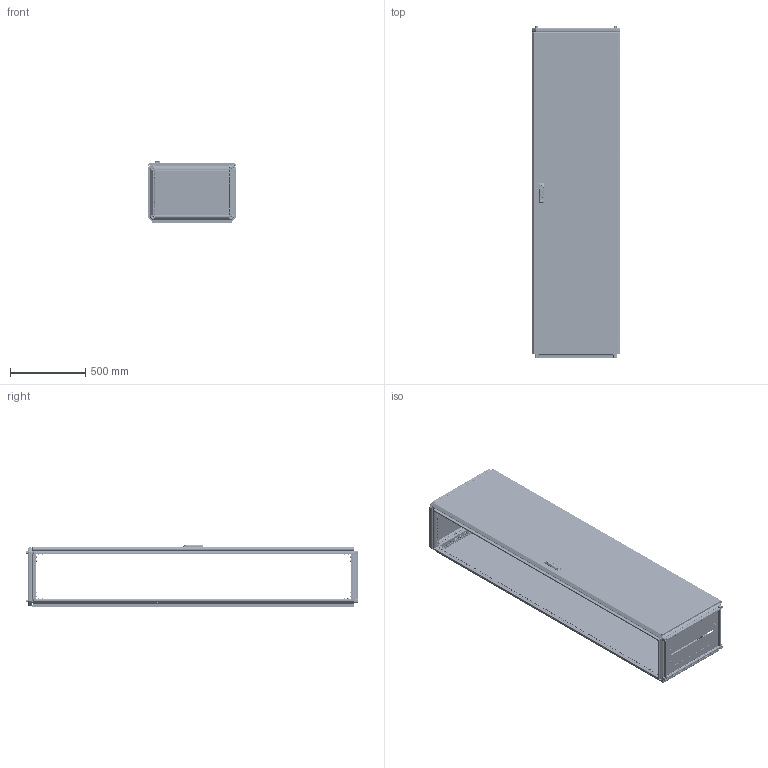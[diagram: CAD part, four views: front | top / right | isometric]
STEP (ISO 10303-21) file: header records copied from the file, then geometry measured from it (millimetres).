
FILE_DESCRIPTION (( 'STEP AP203' ), '1' );
FILE_NAME ('MA1.000.060422.10.00 AleSta2264 Øêàô AleSta 600õ400õ2200.STEP', '2024-08-23T08:45:17', ( '' ), ( '' ), 'SwSTEP 2.0', 'SolidWorks 2021', '' );
FILE_SCHEMA (( 'CONFIG_CONTROL_DESIGN' ));
Length unit declared in the file: millimetre
Products named in the file (50): MA1.101.060620.10.00 Êðûøà 600x600_600å400; Øàéáà ñòîïîðíàÿ ñ íàðóæíûìè çóáöàìè SCHNORR, òèï VS öèíêîâûå õëîïüÿ Ì6 O6,4 ART 88121_Œ6; Áîëò øåñòèãðàííûé Ì5õ12 DIN 933, êëàññ ïðî÷íîñòè 8.8, îöèíêîâàííàÿ ñòàëü; Ãàéêà ñàìîêîíòðÿùàÿñÿ ñ íåéëîíîâîé âñòàâêîé Ì6 DIN 985, êëàññ ïðî÷íîñòè 8, îöèíêîâàííàÿ ñòàëü_Œ5; MA1.101.060620.20.01 Ïîëîòíî íèæíåé ïàíåëè 600õ600_600å400; MA1.200.060620.31.02 Ðåéêà íà äâåðü âåðòèêàëüíàÿ Â = 2000_‚ = 2200; Âèíò ñ âí. øåñòèãðàííèêîì M12 DIN912_•30; MA1.000.060422.10.00 AleSta2264 Øêàô AleSta 600õ400õ2200; MA1.101.060620.20.00 Íèæíÿÿ ïàíåëü 600õ600_600å400; Øïèëüêà Ì6õ12_˜¯¨«ìª  Œ6å12; 諘蜱齁罻 022 瀁錒瀔隮; Íàâåñêà íà êîðïóñ ïîä êëåïêó; êðåïëåíèå_êðóãëîé_òÿãè_RG1020-1.stp; Óïëîòíèòåëü ïàíåëè íèæíåé_‚=2200; MA1.102.060620.00.00 AleSta-VG2000 Ñòîéêè âåðòèêàëüíûå, Â=2000ìì  (4øò)_ 600å400; Øïèëüêà Ì6õ12_˜¯¨«ìª  Œ6å16; Îñü ïåòëè 4õ52_‚¨­â A.M4x0,5x40 ƒŽ‘’ 11644-75; Ïðîáêà ïëàñòèêîâàÿ óíèâåðñàëüíàÿ ïîä îòâåðñòèå 4,5 ìì, ñåðèÿ ST, öâåò áåñöâåòíûé – ST4,5; MS463-2-3(1); äåðæàòåëü_êðóãëîé_òÿãèRG002-RG1010-2-i-RG1010-3-.stp; òÿãà_lg001-2.STEP_‚=2200; Øïèëüêà Ì6õ12_˜¯¨«ìª  Œ6å20; 7380-2 ISO Âèíòû ñ ïîëóêðóãëîé ãîëîâêîé ñ ôëàíöåì ñ âíóòðåííèì øåñòèãðàííèêîì Ì4õ10; MA1.101.060620.10.01 Ïîëîòíî êðûøè 600õ600_600å400; MA1.200.060620.31.05 Óãëîâîé óïîð äâåðíîé òÿãè; MA1.200.060620.10.00 AleSta-PR206  Ïàíåëü çàäíÿÿ, äëÿ øêàôîâ ALESTA, 2000 x 600_2200å600; Óïëîòíèòåëü ïàíåëè íèæíåé_600å400; Âèíò ñàìîíàðåçàþùèé ñ ïîòàéíîé ãîëîâêîé Ì5x14 DIN 7500 M TORX, êëàññ ïðî÷íîñòè 8.8, îöèíêîâàííàÿ ñòàëü_Œ5å12; MA1.200.060620.11.01 Ïîëîòíî çàäíåé ïàíåëè 2000õ600_2200å600; Ïåòëÿ íà äâåðü ï-îáðàçíàÿ; ﾘ琺矜 01.019 ﾃﾎﾑﾒ11371-78_12; Âèíò ñàìîíàðåçàþùèé ñ ïîòàéíîé ãîëîâêîé Ì5x14 DIN 7500 M TORX, êëàññ ïðî÷íîñòè 8.8, îöèíêîâàííàÿ ñòàëü_Œ5å14; Âèíò_ðåçüáîâûäàâëèâàþùèé_Ì5õ12_DIN 7500E_00; MA1.101.060620.20.02 Çàêðûòèå íèæíåé ïàíåëè 600õ600_600å400; MA1.200.060620.31.03 Ðåéêà íà äâåðü ãîðèçîíòàëüíàÿ Ø = 600_˜ = 600; MA1.101.060620.00.02 Ïðîôèëü ïîïåðå÷íûé ñâàðíîé_01 L=498 (˜=600); MA1.102.060620.00.01 Ïðîôèëü âåðòèêàëüíûé ñâàðíîé_05 L=2098 (‚=2200); MA1.200.060620.11.00 Ïàíåëü çàäíÿÿ, äëÿ øêàôîâ AleSta, 2000x600_2200å600; Ãàéêà ñàìîêîíòðÿùàÿñÿ ñ íåéëîíîâîé âñòàâêîé Ì6 DIN 985, êëàññ ïðî÷íîñòè 8, îöèíêîâàííàÿ ñòàëü_Œ6; Âèíò_ðåçüáîâûäàâëèâàþùèé_Ì5õ12_DIN 7500E_Œ5å12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
Assembly tree (337 placements, depth 4):
  MA1.000.060422.10.00 AleSta2264 Øêàô AleSta 600õ400õ2200
    MA1.101.060620.00.00 AleSta-RB66 Êîìïëåêò êðûøà è îñíîâàíèå_ 600å400
      MA1.101.060620.00.02 Ïðîôèëü ïîïåðå÷íûé ñâàðíîé_00 L=298 (˜=400)  x4
      MA1.101.060620.00.02 Ïðîôèëü ïîïåðå÷íûé ñâàðíîé_01 L=498 (˜=600)  x4
      MA1.101.060620.10.00 Êðûøà 600x600_600å400
        MA1.101.060620.10.01 Ïîëîòíî êðûøè 600õ600_600å400
        Øïèëüêà Ì6õ12_˜¯¨«ìª  Œ6å12  x4
        Óïëîòíèòåëü ïàíåëè íèæíåé_600å400
      MA1.101.060620.20.00 Íèæíÿÿ ïàíåëü 600õ600_600å400
        MA1.101.060620.20.01 Ïîëîòíî íèæíåé ïàíåëè 600õ600_600å400
        ﾇﾀﾊﾋﾅﾏﾊﾀ ﾃﾀﾅﾗﾍﾀﾟ ﾘﾅﾑﾒﾈﾃﾐﾀﾍﾍﾀﾟ ﾑ ﾓﾌﾅﾍﾜﾘﾅﾍﾍﾛﾌ ﾁﾎﾐﾒﾎﾌ M4 X 11 (0.5-2.5 ﾌﾌ) HEX U-S ﾖﾈﾍﾊ  x4
        MA1.101.060620.20.02 Çàêðûòèå íèæíåé ïàíåëè 600õ600_600å400  x2
        7380-2 ISO Âèíòû ñ ïîëóêðóãëîé ãîëîâêîé ñ ôëàíöåì ñ âíóòðåííèì øåñòèãðàííèêîì Ì4õ10  x4
      Âèíò_ðåçüáîâûäàâëèâàþùèé_Ì5õ12_DIN 7500E_Œ5å12  x8
      MA1.100.060620.00.01 Ñîåäèíèòåëü óãëîâîé_00  x8
      Âèíò ñ âí. øåñòèãðàííèêîì M12 DIN912_•30  x4
      Âèíò ðåçüáîâûäàâëèâàþùèé Ì6õ12 DIN 7500E_Œ6å10  x96
      ﾘ琺矜 01.019 ﾃﾎﾑﾒ11371-78_12  x4
      ﾘ琺矜 65ﾃ 019 ﾃﾎﾑﾒ 6402-70_12  x4
      Øàéáà ñòîïîðíàÿ ñ íàðóæíûìè çóáöàìè SCHNORR, òèï VS öèíêîâûå õëîïüÿ Ì6 O6,4 ART 88121_Œ6  x80
    MA1.102.060620.00.00 AleSta-VG2000 Ñòîéêè âåðòèêàëüíûå, Â=2000ìì  (4øò)_ 600å400
      MA1.102.060620.00.01 Ïðîôèëü âåðòèêàëüíûé ñâàðíîé_05 L=2098 (‚=2200)  x4
    MA1.200.060620.10.00 AleSta-PR206  Ïàíåëü çàäíÿÿ, äëÿ øêàôîâ ALESTA, 2000 x 600_2200å600
      MA1.200.060620.11.00 Ïàíåëü çàäíÿÿ, äëÿ øêàôîâ AleSta, 2000x600_2200å600
        MA1.200.060620.11.01 Ïîëîòíî çàäíåé ïàíåëè 2000õ600_2200å600
        Óïëîòíèòåëü ïàíåëè íèæíåé_‚=2200
        Øïèëüêà Ì6õ12_˜¯¨«ìª  Œ6å12  x4
      Âèíò ñàìîíàðåçàþùèé ñ ïîòàéíîé ãîëîâêîé Ì5x14 DIN 7500 M TORX, êëàññ ïðî÷íîñòè 8.8, îöèíêîâàííàÿ ñòàëü_Œ5å14  x8
    MA1.200.060620.30.00 AleSta-D20M600 Äâåðü ñïëîøíàÿ äëÿ øêàôîâ ALESTA ÂõØ 2000õ600_2200å600
      MA1.200.060620.31.00 Äâåðü ñïëîøíàÿ äëÿ øêàôîâ ALESTA ÂõØ 2000õ600_2200å600
        MA1.200.060620.31.01 Ïîëîòíî äâåðè ñïëîøíîé 2000õ600_2200å600
        Óïëîòíèòåëü ïàíåëè íèæíåé_‚=2200
        Øïèëüêà Ì6õ12_˜¯¨«ìª  Œ6å20  x16
        Øïèëüêà Ì6õ12_˜¯¨«ìª  Œ6å16  x4
        Ïåòëÿ íà äâåðü ï-îáðàçíàÿ  x4
      MA1.200.060620.31.03 Ðåéêà íà äâåðü ãîðèçîíòàëüíàÿ Ø = 600_˜ = 600  x2
      諘蜱齁罻 022 瀁錒瀔隮  x4
      MA1.200.060620.31.02 Ðåéêà íà äâåðü âåðòèêàëüíàÿ Â = 2000_‚ = 2200  x2
      äåðæàòåëü_êðóãëîé_òÿãèRG002-RG1010-2-i-RG1010-3-.stp  x2
      òÿãà_lg001-2.STEP_‚=2200  x2
      êðåïëåíèå_êðóãëîé_òÿãè_RG1020-1.stp  x2
      MS463-2-3(1)
      Ãàéêà ñàìîêîíòðÿùàÿñÿ ñ íåéëîíîâîé âñòàâêîé Ì6 DIN 985, êëàññ ïðî÷íîñòè 8, îöèíêîâàííàÿ ñòàëü_Œ6  x16
      Ãàéêà ñàìîêîíòðÿùàÿñÿ ñ íåéëîíîâîé âñòàâêîé Ì6 DIN 985, êëàññ ïðî÷íîñòè 8, îöèíêîâàííàÿ ñòàëü_Œ5  x2
      Áîëò øåñòèãðàííûé Ì5õ12 DIN 933, êëàññ ïðî÷íîñòè 8.8, îöèíêîâàííàÿ ñòàëü  x2
      MA1.200.060620.31.04 ðèãåëü çàìêà äâåðè
      MA1.200.060620.31.05 Óãëîâîé óïîð äâåðíîé òÿãè  x2
      Âèíò_ðåçüáîâûäàâëèâàþùèé_Ì5õ12_DIN 7500E_00  x2
      Íàâåñêà íà êîðïóñ ïîä êëåïêó  x4
      Îñü ïåòëè 4õ52_‚¨­â A.M4x0,5x40 ƒŽ‘’ 11644-75  x4
      Âèíò ñàìîíàðåçàþùèé ñ ïîòàéíîé ãîëîâêîé Ì5x14 DIN 7500 M TORX, êëàññ ïðî÷íîñòè 8.8, îöèíêîâàííàÿ ñòàëü_Œ5å12  x8
  Ïðîáêà ïëàñòèêîâàÿ óíèâåðñàëüíàÿ ïîä îòâåðñòèå 4,5 ìì, ñåðèÿ ST, öâåò áåñöâåòíûé – ST4,5
Bounding box: 592 x 2210.9 x 416.8 mm (x, y, z)
Volume: 9230015.3 mm3; surface area: 11661962.7 mm2
Topology: 364 solids, 378 shells, 23851 faces, 61590 edges, 38568 vertices
Faces by surface type: plane 14249, cylinder 6909, bspline 921, cone 845, torus 829, sphere 98
Entity records: 250488 total; most frequent: CARTESIAN_POINT 80137, ORIENTED_EDGE 32594, DIRECTION 32080, EDGE_CURVE 16314, AXIS2_PLACEMENT_3D 11008, VERTEX_POINT 10173, LINE 10064, VECTOR 10064
